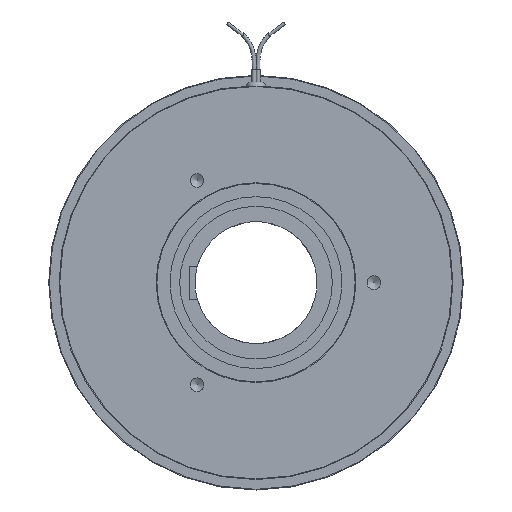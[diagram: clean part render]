
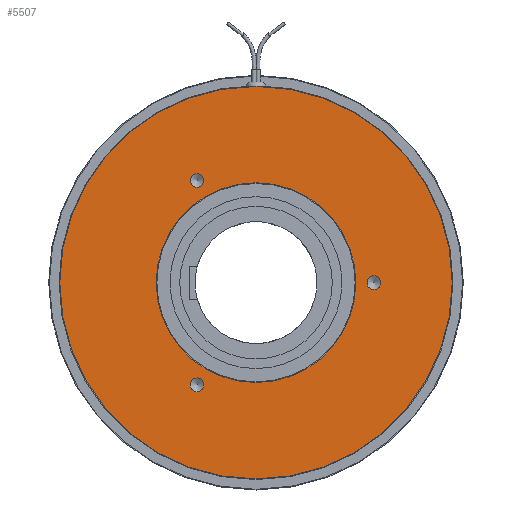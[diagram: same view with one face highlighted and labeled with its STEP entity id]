
A CAD part, left-side view. The second image highlights one B-rep face of the part: STEP entity #5507.
In plain terms, the highlighted planar face has unit normal (-1, 0, 0).
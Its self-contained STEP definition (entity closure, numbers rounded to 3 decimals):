
#130=FACE_BOUND('',#723,.T.);
#131=FACE_BOUND('',#724,.T.);
#132=FACE_BOUND('',#725,.T.);
#133=FACE_BOUND('',#726,.T.);
#207=PLANE('',#6019);
#384=FACE_OUTER_BOUND('',#722,.T.);
#722=EDGE_LOOP('',(#3938,#3939,#3940));
#723=EDGE_LOOP('',(#3941,#3942));
#724=EDGE_LOOP('',(#3943,#3944));
#725=EDGE_LOOP('',(#3945,#3946));
#726=EDGE_LOOP('',(#3947,#3948));
#1677=CIRCLE('',#6012,70.75);
#1678=CIRCLE('',#6013,70.75);
#1679=CIRCLE('',#6015,36.);
#1682=CIRCLE('',#6018,36.);
#1683=CIRCLE('',#6020,70.75);
#1684=CIRCLE('',#6021,2.459);
#1685=CIRCLE('',#6022,2.459);
#1686=CIRCLE('',#6023,2.459);
#1687=CIRCLE('',#6024,2.459);
#1688=CIRCLE('',#6025,2.459);
#1689=CIRCLE('',#6026,2.459);
#2186=VERTEX_POINT('',#9106);
#2187=VERTEX_POINT('',#9108);
#2188=VERTEX_POINT('',#9110);
#2192=VERTEX_POINT('',#9137);
#2193=VERTEX_POINT('',#9138);
#2196=VERTEX_POINT('',#9148);
#2197=VERTEX_POINT('',#9149);
#2198=VERTEX_POINT('',#9152);
#2199=VERTEX_POINT('',#9153);
#2200=VERTEX_POINT('',#9156);
#2201=VERTEX_POINT('',#9157);
#2841=EDGE_CURVE('',#2187,#2186,#1677,.T.);
#2842=EDGE_CURVE('',#2188,#2187,#1678,.T.);
#2847=EDGE_CURVE('',#2192,#2193,#1679,.T.);
#2851=EDGE_CURVE('',#2193,#2192,#1682,.T.);
#2852=EDGE_CURVE('',#2186,#2188,#1683,.T.);
#2853=EDGE_CURVE('',#2196,#2197,#1684,.T.);
#2854=EDGE_CURVE('',#2197,#2196,#1685,.T.);
#2855=EDGE_CURVE('',#2198,#2199,#1686,.T.);
#2856=EDGE_CURVE('',#2199,#2198,#1687,.T.);
#2857=EDGE_CURVE('',#2200,#2201,#1688,.T.);
#2858=EDGE_CURVE('',#2201,#2200,#1689,.T.);
#3938=ORIENTED_EDGE('',*,*,#2841,.T.);
#3939=ORIENTED_EDGE('',*,*,#2852,.T.);
#3940=ORIENTED_EDGE('',*,*,#2842,.T.);
#3941=ORIENTED_EDGE('',*,*,#2853,.T.);
#3942=ORIENTED_EDGE('',*,*,#2854,.T.);
#3943=ORIENTED_EDGE('',*,*,#2855,.T.);
#3944=ORIENTED_EDGE('',*,*,#2856,.T.);
#3945=ORIENTED_EDGE('',*,*,#2857,.T.);
#3946=ORIENTED_EDGE('',*,*,#2858,.T.);
#3947=ORIENTED_EDGE('',*,*,#2847,.F.);
#3948=ORIENTED_EDGE('',*,*,#2851,.F.);
#5507=ADVANCED_FACE('',(#384,#130,#131,#132,#133),#207,.T.);
#6012=AXIS2_PLACEMENT_3D('',#9109,#7199,#7200);
#6013=AXIS2_PLACEMENT_3D('',#9111,#7201,#7202);
#6015=AXIS2_PLACEMENT_3D('',#9139,#7208,#7209);
#6018=AXIS2_PLACEMENT_3D('',#9145,#7215,#7216);
#6019=AXIS2_PLACEMENT_3D('',#9146,#7217,#7218);
#6020=AXIS2_PLACEMENT_3D('',#9147,#7219,#7220);
#6021=AXIS2_PLACEMENT_3D('',#9150,#7221,#7222);
#6022=AXIS2_PLACEMENT_3D('',#9151,#7223,#7224);
#6023=AXIS2_PLACEMENT_3D('',#9154,#7225,#7226);
#6024=AXIS2_PLACEMENT_3D('',#9155,#7227,#7228);
#6025=AXIS2_PLACEMENT_3D('',#9158,#7229,#7230);
#6026=AXIS2_PLACEMENT_3D('',#9159,#7231,#7232);
#7199=DIRECTION('center_axis',(-1.,0.,0.));
#7200=DIRECTION('ref_axis',(0.,1.,0.));
#7201=DIRECTION('center_axis',(-1.,0.,0.));
#7202=DIRECTION('ref_axis',(0.,1.,0.));
#7208=DIRECTION('center_axis',(-1.,0.,0.));
#7209=DIRECTION('ref_axis',(0.,1.,0.));
#7215=DIRECTION('center_axis',(-1.,0.,0.));
#7216=DIRECTION('ref_axis',(0.,1.,0.));
#7217=DIRECTION('center_axis',(-1.,0.,0.));
#7218=DIRECTION('ref_axis',(0.,0.,1.));
#7219=DIRECTION('center_axis',(-1.,0.,0.));
#7220=DIRECTION('ref_axis',(0.,1.,0.));
#7221=DIRECTION('center_axis',(1.,0.,0.));
#7222=DIRECTION('ref_axis',(0.,0.,1.));
#7223=DIRECTION('center_axis',(1.,0.,0.));
#7224=DIRECTION('ref_axis',(0.,0.,1.));
#7225=DIRECTION('center_axis',(1.,0.,0.));
#7226=DIRECTION('ref_axis',(0.,0.,1.));
#7227=DIRECTION('center_axis',(1.,0.,0.));
#7228=DIRECTION('ref_axis',(0.,0.,1.));
#7229=DIRECTION('center_axis',(1.,0.,0.));
#7230=DIRECTION('ref_axis',(0.,0.,1.));
#7231=DIRECTION('center_axis',(1.,0.,0.));
#7232=DIRECTION('ref_axis',(0.,0.,1.));
#9106=CARTESIAN_POINT('',(-19.5,-70.75,0.));
#9108=CARTESIAN_POINT('',(-19.5,70.75,0.));
#9109=CARTESIAN_POINT('Origin',(-19.5,0.,0.));
#9110=CARTESIAN_POINT('',(-19.5,0.,70.75));
#9111=CARTESIAN_POINT('Origin',(-19.5,0.,0.));
#9137=CARTESIAN_POINT('',(-19.5,36.,0.));
#9138=CARTESIAN_POINT('',(-19.5,-36.,0.));
#9139=CARTESIAN_POINT('Origin',(-19.5,0.,0.));
#9145=CARTESIAN_POINT('Origin',(-19.5,0.,0.));
#9146=CARTESIAN_POINT('Origin',(-19.5,53.375,0.));
#9147=CARTESIAN_POINT('Origin',(-19.5,0.,0.));
#9148=CARTESIAN_POINT('',(-19.5,21.25,39.265));
#9149=CARTESIAN_POINT('',(-19.5,21.25,34.348));
#9150=CARTESIAN_POINT('Origin',(-19.5,21.25,36.806));
#9151=CARTESIAN_POINT('Origin',(-19.5,21.25,36.806));
#9152=CARTESIAN_POINT('',(-19.5,-42.5,2.459));
#9153=CARTESIAN_POINT('',(-19.5,-42.5,-2.458));
#9154=CARTESIAN_POINT('Origin',(-19.5,-42.5,0.));
#9155=CARTESIAN_POINT('Origin',(-19.5,-42.5,0.));
#9156=CARTESIAN_POINT('',(-19.5,21.25,-34.348));
#9157=CARTESIAN_POINT('',(-19.5,21.25,-39.265));
#9158=CARTESIAN_POINT('Origin',(-19.5,21.25,-36.806));
#9159=CARTESIAN_POINT('Origin',(-19.5,21.25,-36.806));
